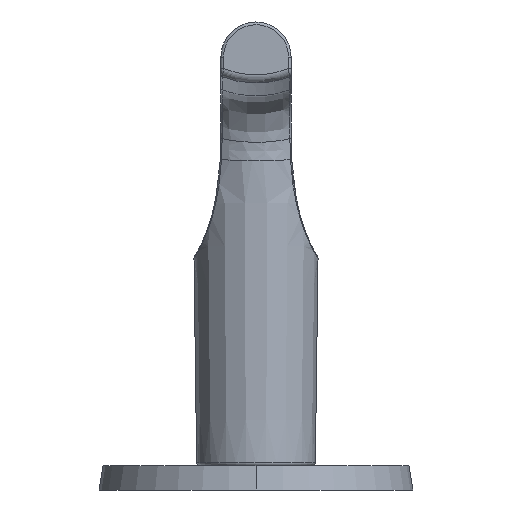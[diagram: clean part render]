
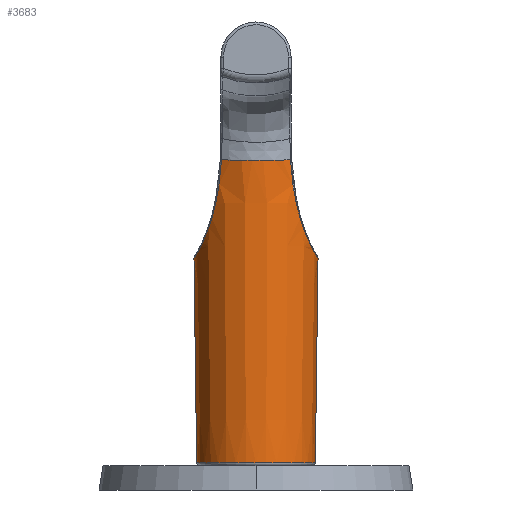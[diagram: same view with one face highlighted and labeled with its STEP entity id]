
A CAD part, left-side view. The second image highlights one B-rep face of the part: STEP entity #3683.
In plain terms, the highlighted conical face has half-angle 0.75 degrees and reference radius 11.335 mm.
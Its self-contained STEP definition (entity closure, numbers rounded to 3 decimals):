
#60=CARTESIAN_POINT('',(0.,0.,4.693));
#61=DIRECTION('',(0.,0.,1.));
#62=DIRECTION('',(0.,1.,0.));
#63=AXIS2_PLACEMENT_3D('',#60,#61,#62);
#65=CARTESIAN_POINT('',(0.,0.,4.693));
#66=DIRECTION('',(0.,0.,1.));
#67=DIRECTION('',(-0.002,1.,0.));
#68=AXIS2_PLACEMENT_3D('',#65,#66,#67);
#95=CARTESIAN_POINT('',(0.,-11.464,
42.555));
#143=DIRECTION('',(0.,-0.013,1.));
#144=VECTOR('',#143,37.865);
#145=CARTESIAN_POINT('',(0.,-10.968,4.693));
#146=LINE('',#145,#144);
#646=CARTESIAN_POINT('',(0.,-11.464,
42.555));
#647=CARTESIAN_POINT('',(-0.153,-11.464,
42.555));
#648=CARTESIAN_POINT('',(-0.46,-11.458,
42.564));
#649=CARTESIAN_POINT('',(-0.92,-11.431,
42.607));
#650=CARTESIAN_POINT('',(-1.376,-11.386,42.677));
#651=CARTESIAN_POINT('',(-1.824,-11.324,42.776));
#652=CARTESIAN_POINT('',(-2.276,-11.244,42.905));
#653=CARTESIAN_POINT('',(-2.725,-11.145,43.065));
#654=CARTESIAN_POINT('',(-3.146,-11.036,43.246));
#655=CARTESIAN_POINT('',(-3.574,-10.909,43.462));
#656=CARTESIAN_POINT('',(-4.025,-10.754,43.732));
#657=CARTESIAN_POINT('',(-4.402,-10.608,43.993));
#658=CARTESIAN_POINT('',(-4.801,-10.439,44.303));
#659=CARTESIAN_POINT('',(-5.227,-10.237,44.689));
#660=CARTESIAN_POINT('',(-5.578,-10.055,45.05));
#661=CARTESIAN_POINT('',(-5.946,-9.85,45.473));
#662=CARTESIAN_POINT('',(-6.341,-9.608,45.997));
#663=CARTESIAN_POINT('',(-6.667,-9.392,46.491));
#664=CARTESIAN_POINT('',(-6.986,-9.167,47.032));
#665=CARTESIAN_POINT('',(-7.318,-8.914,47.675));
#666=CARTESIAN_POINT('',(-7.635,-8.657,48.38));
#667=CARTESIAN_POINT('',(-7.907,-8.421,49.074));
#668=CARTESIAN_POINT('',(-8.164,-8.186,49.82));
#669=CARTESIAN_POINT('',(-8.399,-7.959,50.601));
#670=CARTESIAN_POINT('',(-8.613,-7.742,51.412));
#671=CARTESIAN_POINT('',(-8.81,-7.535,52.267));
#672=CARTESIAN_POINT('',(-8.984,-7.344,53.132));
#673=CARTESIAN_POINT('',(-9.145,-7.161,54.057));
#674=CARTESIAN_POINT('',(-9.286,-6.998,54.986));
#675=CARTESIAN_POINT('',(-9.414,-6.846,55.967));
#676=CARTESIAN_POINT('',(-9.527,-6.71,56.977));
#677=CARTESIAN_POINT('',(-9.638,-6.578,58.146));
#678=CARTESIAN_POINT('',(-9.73,-6.469,59.339));
#679=CARTESIAN_POINT('',(-9.786,-6.405,60.251));
#680=CARTESIAN_POINT('',(-9.811,-6.378,60.728));
#682=CARTESIAN_POINT('',(-9.811,-6.378,60.728));
#694=DIRECTION('',(0.,0.013,1.));
#695=VECTOR('',#694,37.865);
#696=CARTESIAN_POINT('',(0.,10.968,4.693));
#697=LINE('',#696,#695);
#698=CARTESIAN_POINT('',(0.,11.464,42.555));
#699=CARTESIAN_POINT('',(-0.155,11.464,42.555));
#700=CARTESIAN_POINT('',(-0.464,11.458,42.564));
#701=CARTESIAN_POINT('',(-0.928,11.43,42.607));
#702=CARTESIAN_POINT('',(-1.388,11.385,42.68));
#703=CARTESIAN_POINT('',(-1.839,11.322,42.779));
#704=CARTESIAN_POINT('',(-2.298,11.239,42.912));
#705=CARTESIAN_POINT('',(-2.742,11.141,43.072));
#706=CARTESIAN_POINT('',(-3.166,11.031,43.256));
#707=CARTESIAN_POINT('',(-3.601,10.9,43.477));
#708=CARTESIAN_POINT('',(-4.035,10.75,43.739));
#709=CARTESIAN_POINT('',(-4.421,10.601,44.006));
#710=CARTESIAN_POINT('',(-4.824,10.429,44.322));
#711=CARTESIAN_POINT('',(-5.258,10.222,44.718));
#712=CARTESIAN_POINT('',(-5.6,10.044,45.074));
#713=CARTESIAN_POINT('',(-5.973,9.834,45.507));
#714=CARTESIAN_POINT('',(-6.372,9.588,46.041));
#715=CARTESIAN_POINT('',(-6.693,9.374,46.533));
#716=CARTESIAN_POINT('',(-7.012,9.147,47.08));
#717=CARTESIAN_POINT('',(-7.343,8.895,47.725));
#718=CARTESIAN_POINT('',(-7.673,8.625,48.471));
#719=CARTESIAN_POINT('',(-7.945,8.387,49.177));
#720=CARTESIAN_POINT('',(-8.212,8.141,49.969));
#721=CARTESIAN_POINT('',(-8.449,7.909,50.781));
#722=CARTESIAN_POINT('',(-8.665,7.689,51.625));
#723=CARTESIAN_POINT('',(-8.858,7.482,52.496));
#724=CARTESIAN_POINT('',(-9.029,7.294,53.378));
#725=CARTESIAN_POINT('',(-9.187,7.114,54.315));
#726=CARTESIAN_POINT('',(-9.326,6.95,55.282));
#727=CARTESIAN_POINT('',(-9.446,6.808,56.229));
#728=CARTESIAN_POINT('',(-9.567,6.663,57.371));
#729=CARTESIAN_POINT('',(-9.655,6.557,58.37));
#730=CARTESIAN_POINT('',(-9.739,6.458,59.487));
#731=CARTESIAN_POINT('',(-9.789,6.402,60.302));
#732=CARTESIAN_POINT('',(-9.811,6.378,60.728));
#734=CARTESIAN_POINT('',(-9.811,6.378,60.728));
#735=CARTESIAN_POINT('',(-10.08,5.964,60.714));
#736=CARTESIAN_POINT('',(-10.61,5.023,60.685));
#737=CARTESIAN_POINT('',(-11.22,3.471,60.651));
#738=CARTESIAN_POINT('',(-11.613,1.755,60.63));
#739=CARTESIAN_POINT('',(-11.744,0.,
60.623));
#740=CARTESIAN_POINT('',(-11.613,-1.755,60.63));
#741=CARTESIAN_POINT('',(-11.22,-3.471,60.651));
#742=CARTESIAN_POINT('',(-10.61,-5.023,60.685));
#743=CARTESIAN_POINT('',(-10.08,-5.964,60.714));
#744=CARTESIAN_POINT('',(-9.811,-6.378,60.728));
#1339=CARTESIAN_POINT('',(0.,11.464,
42.555));
#1883=CARTESIAN_POINT('',(0.,10.968,4.693));
#1884=VERTEX_POINT('',#1883);
#1885=CARTESIAN_POINT('',(-0.021,10.968,
4.693));
#1886=CARTESIAN_POINT('',(0.,-10.968,4.693));
#1887=VERTEX_POINT('',#1885);
#1888=VERTEX_POINT('',#1886);
#1891=VERTEX_POINT('',#95);
#1894=VERTEX_POINT('',#1339);
#1961=VERTEX_POINT('',#682);
#1962=VERTEX_POINT('',#732);
#3667=CARTESIAN_POINT('',(0.,0.,32.711));
#3668=DIRECTION('',(0.,0.,1.));
#3669=DIRECTION('',(0.,-1.,0.));
#3670=AXIS2_PLACEMENT_3D('',#3667,#3668,#3669);
#3671=CONICAL_SURFACE('',#3670,11.335,0.75);
#3672=ORIENTED_EDGE('',*,*,#3654,.F.);
#3673=ORIENTED_EDGE('',*,*,#2155,.F.);
#3674=ORIENTED_EDGE('',*,*,#2103,.F.);
#3675=ORIENTED_EDGE('',*,*,#2101,.F.);
#3676=ORIENTED_EDGE('',*,*,#2151,.T.);
#3678=ORIENTED_EDGE('',*,*,#3677,.T.);
#3680=ORIENTED_EDGE('',*,*,#3679,.T.);
#3681=EDGE_LOOP('',(#3672,#3673,#3674,#3675,#3676,#3678,#3680));
#3682=FACE_OUTER_BOUND('',#3681,.F.);
#64=CIRCLE('',#63,10.968);
#69=CIRCLE('',#68,10.968);
#681=B_SPLINE_CURVE_WITH_KNOTS('',3,(#646,#647,#648,#649,#650,#651,#652,#653,
#654,#655,#656,#657,#658,#659,#660,#661,#662,#663,#664,#665,#666,#667,#668,#669,
#670,#671,#672,#673,#674,#675,#676,#677,#678,#679,#680),.UNSPECIFIED.,.F.,.F.,
(4,1,1,1,1,1,1,1,1,1,1,1,1,1,1,1,1,1,1,1,1,1,1,1,1,1,1,1,1,1,1,1,4),(0.,
0.031,0.063,0.094,0.125,0.156,0.188,0.219,0.25,0.281,
0.313,0.344,0.375,0.406,0.438,0.469,0.5,0.531,
0.563,0.594,0.625,0.656,0.688,0.719,0.75,0.781,
0.813,0.844,0.875,0.906,0.938,0.969,1.),.UNSPECIFIED.);
#733=B_SPLINE_CURVE_WITH_KNOTS('',3,(#698,#699,#700,#701,#702,#703,#704,#705,
#706,#707,#708,#709,#710,#711,#712,#713,#714,#715,#716,#717,#718,#719,#720,#721,
#722,#723,#724,#725,#726,#727,#728,#729,#730,#731,#732),.UNSPECIFIED.,.F.,.F.,
(4,1,1,1,1,1,1,1,1,1,1,1,1,1,1,1,1,1,1,1,1,1,1,1,1,1,1,1,1,1,1,1,4),(0.,
0.031,0.063,0.094,0.125,0.156,0.188,0.219,0.25,0.281,
0.313,0.344,0.375,0.406,0.438,0.469,0.5,0.531,
0.563,0.594,0.625,0.656,0.688,0.719,0.75,0.781,
0.813,0.844,0.875,0.906,0.938,0.969,1.),.UNSPECIFIED.);
#745=B_SPLINE_CURVE_WITH_KNOTS('',3,(#734,#735,#736,#737,#738,#739,#740,#741,
#742,#743,#744),.UNSPECIFIED.,.F.,.F.,(4,1,1,1,1,1,1,1,4),(0.,
0.11,0.24,0.37,0.5,
0.63,0.76,0.89,1.),.UNSPECIFIED.);
#2101=EDGE_CURVE('',#1884,#1887,#64,.T.);
#2103=EDGE_CURVE('',#1887,#1888,#69,.T.);
#2151=EDGE_CURVE('',#1884,#1894,#697,.T.);
#2155=EDGE_CURVE('',#1888,#1891,#146,.T.);
#3654=EDGE_CURVE('',#1891,#1961,#681,.T.);
#3677=EDGE_CURVE('',#1894,#1962,#733,.T.);
#3679=EDGE_CURVE('',#1962,#1961,#745,.T.);
#3683=ADVANCED_FACE('',(#3682),#3671,.T.);
